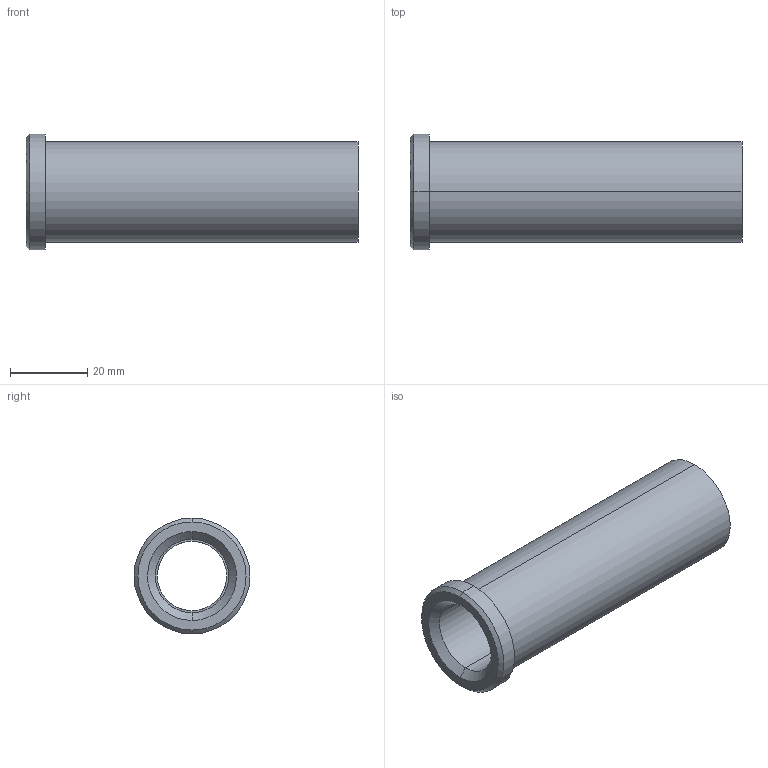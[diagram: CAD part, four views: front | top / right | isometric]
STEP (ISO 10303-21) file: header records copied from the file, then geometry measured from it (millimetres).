
FILE_DESCRIPTION(('CATIA V5 STEP Exchange'),'2;1');
FILE_NAME('C:\Users\Utente\Desktop\IO LAVORO\3D X SITO CF\X SITO\PLASTICA\353\353-18X86.stp','2021-05-08T08:39:18+00:00',('none'),('none'),'CATIA Version 5 Release 20 GA (IN-10)','CATIA V5 STEP AP203','none');
FILE_SCHEMA(('CONFIG_CONTROL_DESIGN'));
Length unit declared in the file: millimetre
Products named in the file (1): 353-18X86
Bounding box: 86 x 30 x 30 mm (x, y, z)
Volume: 23000.1 mm3; surface area: 12855.8 mm2
Topology: 1 solids, 1 shells, 18 faces, 58 edges, 44 vertices
Faces by surface type: cylinder 8, plane 4, cone 4, torus 2
Entity records: 840 total; most frequent: CARTESIAN_POINT 289, ORIENTED_EDGE 116, DIRECTION 82, EDGE_CURVE 58, AXIS2_PLACEMENT_3D 53, VERTEX_POINT 44, CIRCLE 34, EDGE_LOOP 22
